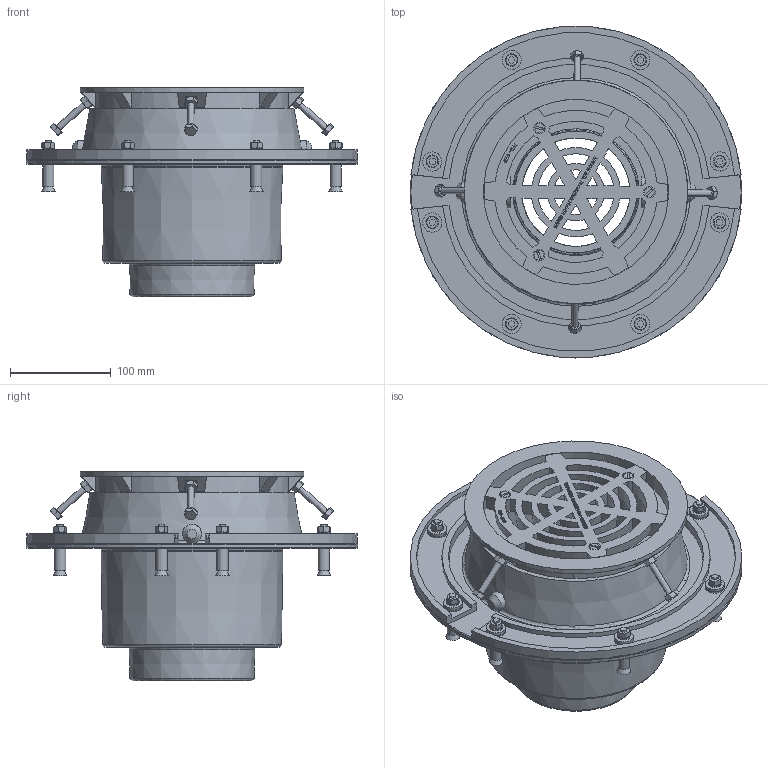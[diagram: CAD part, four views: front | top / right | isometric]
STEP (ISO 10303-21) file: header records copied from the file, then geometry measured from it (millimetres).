
FILE_DESCRIPTION(/* description */ (''),/* implementation_level */ '2;1');
FILE_NAME(/* name */ 'C:\2014_Work\Designs\CFD\CFD3.stp',/* time_stamp */ '2014-05-12T11:00:20-04:00',/* author */ ('mleuck'),/* organization */ (''),/* preprocessor_version */ 'ST-DEVELOPER v15.2',/* originating_system */ 'Autodesk Inventor 2014',/* authorisation */ '');
FILE_SCHEMA (('AUTOMOTIVE_DESIGN { 1 0 10303 214 3 1 1 }'));
Length unit declared in the file: inch
Products named in the file (15): D-1440-4 CFD BOTTOM CAST CUT FOR 3 INCH FLOOR; D-1440-4 CFD TOP CAST CUT FOR 3 INCH FLOOR; A-16574 GRATE FOR CDF (D-1440); D-1440-4 WEEP HOLE PLUG; ANSI B18.6.2 - 1_4-20 UNC - 0.75(16); D-1440-4  CFD CAST IRON RINGS; ANSI B18.2.2 - 1_4 - 20(2); ASME B18.21.1 - 1_4(2); ANSI B18.22.1 - 1_4 - Regular - Type B; D-1440-4 SLEEVE; D-1440-4 ANCHOR BOLT; D-1440-4 CFD ANCHOR GROMMET; D-1440-4 CFD ANCHOR; D-1440-4 CFD ADJUSTING BOLT; D-1440-4 CFD FLOATING FLOOR DRAIN FOR 3 INCH FLOOR THICKNESS
Bounding box: 330.2 x 330.2 x 208.22 mm (x, y, z)
Volume: 2206932.7 mm3; surface area: 855713.2 mm2
Topology: 66 solids, 66 shells, 1330 faces, 3144 edges, 2010 vertices
Faces by surface type: plane 710, cone 318, cylinder 164, bspline 115, torus 23
Full cylindrical faces by diameter (mm): 4.978 x19, 6.35 x15, 6.401 x3, 7.137 x8, 7.938 x16, 11.112 x8, 11.125 x4, 12.7 x16, 18.644 x8, 19.05 x14, 31.75 x2, 146.05 x1, 168.275 x1, 184.15 x1, 193.675 x1, 222.25 x1, 330.2 x1
Entity records: 26101 total; most frequent: CARTESIAN_POINT 6884, ORIENTED_EDGE 3980, DIRECTION 3500, EDGE_CURVE 1990, VERTEX_POINT 1361, LINE 1168, VECTOR 1168, AXIS2_PLACEMENT_3D 1166
